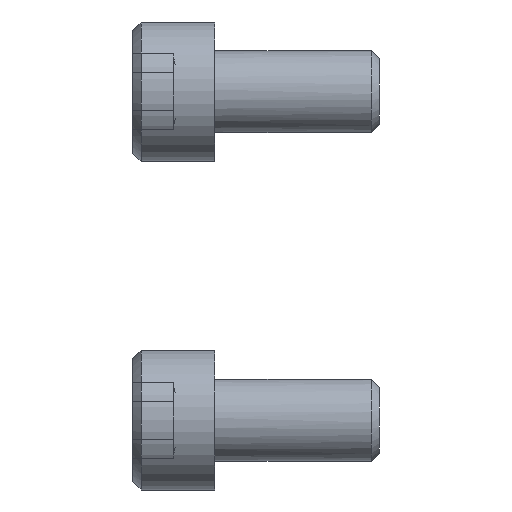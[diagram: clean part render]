
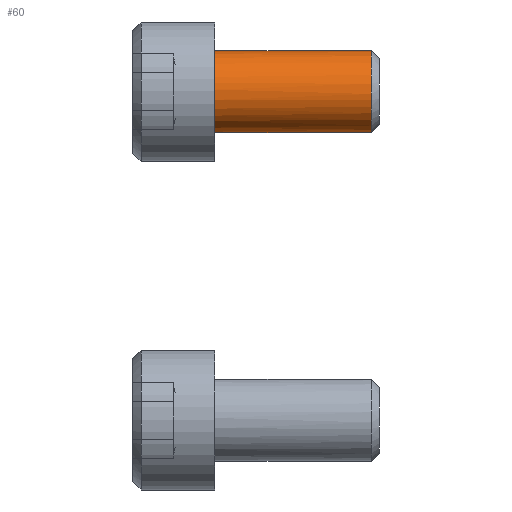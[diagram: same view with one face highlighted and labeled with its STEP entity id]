
A CAD part, left-side view. The second image highlights one B-rep face of the part: STEP entity #60.
In plain terms, the highlighted free-form (B-spline) face has degree [1, 2] with [2, 9] control points.
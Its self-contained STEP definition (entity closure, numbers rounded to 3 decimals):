
#60=ADVANCED_FACE('',(#85),#779,.T.);
#85=FACE_OUTER_BOUND('',#110,.T.);
#110=EDGE_LOOP('',(#143,#144,#145,#146));
#143=ORIENTED_EDGE('',*,*,#646,.T.);
#144=ORIENTED_EDGE('',*,*,#647,.T.);
#145=ORIENTED_EDGE('',*,*,#648,.T.);
#146=ORIENTED_EDGE('',*,*,#649,.T.);
#251=PCURVE('',#779,#359);
#252=PCURVE('',#779,#360);
#253=PCURVE('',#779,#361);
#254=PCURVE('',#779,#362);
#255=PCURVE('',#780,#363);
#328=PCURVE('',#784,#436);
#330=PCURVE('',#784,#438);
#333=PCURVE('',#775,#441);
#359=DEFINITIONAL_REPRESENTATION('',(#471),#1535);
#360=DEFINITIONAL_REPRESENTATION('',(#473),#1535);
#361=DEFINITIONAL_REPRESENTATION('',(#474),#1535);
#362=DEFINITIONAL_REPRESENTATION('',(#476),#1535);
#363=DEFINITIONAL_REPRESENTATION('',(#477),#1535);
#436=DEFINITIONAL_REPRESENTATION('',(#568),#1535);
#438=DEFINITIONAL_REPRESENTATION('',(#570),#1535);
#441=DEFINITIONAL_REPRESENTATION('',(#723),#1535);
#471=B_SPLINE_CURVE_WITH_KNOTS('',1,(#1170,#1171),.UNSPECIFIED.,.F.,.F.,
(2,2),(0.,7.854),.UNSPECIFIED.);
#472=B_SPLINE_CURVE_WITH_KNOTS('',1,(#1172,#1173),.UNSPECIFIED.,.F.,.F.,
(2,2),(0.,9.51),.UNSPECIFIED.);
#473=B_SPLINE_CURVE_WITH_KNOTS('',1,(#1174,#1175),.UNSPECIFIED.,.F.,.F.,
(2,2),(0.,9.51),.UNSPECIFIED.);
#474=B_SPLINE_CURVE_WITH_KNOTS('',1,(#1181,#1182),.UNSPECIFIED.,.F.,.F.,
(2,2),(-7.854,0.),.UNSPECIFIED.);
#475=B_SPLINE_CURVE_WITH_KNOTS('',1,(#1183,#1184),.UNSPECIFIED.,.F.,.F.,
(2,2),(0.,9.51),.UNSPECIFIED.);
#476=B_SPLINE_CURVE_WITH_KNOTS('',1,(#1185,#1186),.UNSPECIFIED.,.F.,.F.,
(2,2),(0.,9.51),.UNSPECIFIED.);
#477=B_SPLINE_CURVE_WITH_KNOTS('',1,(#1187,#1188),.UNSPECIFIED.,.F.,.F.,
(2,2),(-7.854,0.),.UNSPECIFIED.);
#568=B_SPLINE_CURVE_WITH_KNOTS('',1,(#1442,#1443),.UNSPECIFIED.,.F.,.F.,
(2,2),(0.,9.51),.UNSPECIFIED.);
#570=B_SPLINE_CURVE_WITH_KNOTS('',1,(#1451,#1452),.UNSPECIFIED.,.F.,.F.,
(2,2),(0.,9.51),.UNSPECIFIED.);
#592=SURFACE_CURVE('',#696,(#251,#333),.PCURVE_S1.);
#593=SURFACE_CURVE('',#472,(#252,#328),.PCURVE_S1.);
#594=SURFACE_CURVE('',#697,(#253,#255),.PCURVE_S1.);
#595=SURFACE_CURVE('',#475,(#254,#330),.PCURVE_S1.);
#646=EDGE_CURVE('',#735,#738,#592,.T.);
#647=EDGE_CURVE('',#738,#737,#593,.T.);
#648=EDGE_CURVE('',#737,#736,#594,.T.);
#649=EDGE_CURVE('',#736,#735,#595,.T.);
#696=(
BOUNDED_CURVE()
B_SPLINE_CURVE(2,(#1165,#1166,#1167,#1168,#1169),.UNSPECIFIED.,.F.,.F.)
B_SPLINE_CURVE_WITH_KNOTS((3,2,3),(0.,3.927,7.854),
 .UNSPECIFIED.)
CURVE()
GEOMETRIC_REPRESENTATION_ITEM()
RATIONAL_B_SPLINE_CURVE((1.,0.707,1.,0.707,1.))
REPRESENTATION_ITEM('')
);
#697=(
BOUNDED_CURVE()
B_SPLINE_CURVE(2,(#1176,#1177,#1178,#1179,#1180),.UNSPECIFIED.,.F.,.F.)
B_SPLINE_CURVE_WITH_KNOTS((3,2,3),(-7.854,-3.927,0.),
 .UNSPECIFIED.)
CURVE()
GEOMETRIC_REPRESENTATION_ITEM()
RATIONAL_B_SPLINE_CURVE((1.,0.707,1.,0.707,1.))
REPRESENTATION_ITEM('')
);
#723=(
BOUNDED_CURVE()
B_SPLINE_CURVE(2,(#1468,#1469,#1470,#1471,#1472),.UNSPECIFIED.,.F.,.F.)
B_SPLINE_CURVE_WITH_KNOTS((3,2,3),(0.,3.927,7.854),
 .UNSPECIFIED.)
CURVE()
GEOMETRIC_REPRESENTATION_ITEM()
RATIONAL_B_SPLINE_CURVE((1.,0.707,1.,0.707,1.))
REPRESENTATION_ITEM('')
);
#735=VERTEX_POINT('',#1099);
#736=VERTEX_POINT('',#1100);
#737=VERTEX_POINT('',#1101);
#738=VERTEX_POINT('',#1102);
#775=PLANE('',#848);
#779=(
BOUNDED_SURFACE()
B_SPLINE_SURFACE(1,2,((#934,#935,#936,#937,#938,#939,#940,#941,#942),(#943,
#944,#945,#946,#947,#948,#949,#950,#951)),.UNSPECIFIED.,.F.,.F.,.F.)
B_SPLINE_SURFACE_WITH_KNOTS((2,2),(3,2,2,2,3),(0.,11.414),(0.,1.571,
3.142,4.712,6.283),.UNSPECIFIED.)
GEOMETRIC_REPRESENTATION_ITEM()
RATIONAL_B_SPLINE_SURFACE(((1.,0.707,1.,0.707,1.,
0.707,1.,0.707,1.),(1.,0.707,1.,0.707,
1.,0.707,1.,0.707,1.)))
REPRESENTATION_ITEM('')
SURFACE()
);
#780=(
BOUNDED_SURFACE()
B_SPLINE_SURFACE(1,2,((#952,#953,#954,#955,#956,#957,#958,#959,#960),(#961,
#962,#963,#964,#965,#966,#967,#968,#969)),.UNSPECIFIED.,.F.,.F.,.F.)
B_SPLINE_SURFACE_WITH_KNOTS((2,2),(3,2,2,2,3),(0.,3.891),(0.,
1.571,3.142,4.712,6.283),
 .UNSPECIFIED.)
GEOMETRIC_REPRESENTATION_ITEM()
RATIONAL_B_SPLINE_SURFACE(((1.,0.707,1.,0.707,1.,
0.707,1.,0.707,1.),(1.,0.707,1.,0.707,
1.,0.707,1.,0.707,1.)))
REPRESENTATION_ITEM('')
SURFACE()
);
#784=(
BOUNDED_SURFACE()
B_SPLINE_SURFACE(1,2,((#1037,#1038,#1039,#1040,#1041,#1042,#1043,#1044,#1045),
(#1046,#1047,#1048,#1049,#1050,#1051,#1052,#1053,#1054)),.UNSPECIFIED.,.F.,
 .F.,.F.)
B_SPLINE_SURFACE_WITH_KNOTS((2,2),(3,2,2,2,3),(0.,11.414),(0.,1.571,
3.142,4.712,6.283),.UNSPECIFIED.)
GEOMETRIC_REPRESENTATION_ITEM()
RATIONAL_B_SPLINE_SURFACE(((1.,0.707,1.,0.707,1.,
0.707,1.,0.707,1.),(1.,0.707,1.,0.707,
1.,0.707,1.,0.707,1.)))
REPRESENTATION_ITEM('')
SURFACE()
);
#848=AXIS2_PLACEMENT_3D('',#1055,#876,$);
#876=DIRECTION('',(1.,0.,0.));
#934=CARTESIAN_POINT('',(-0.952,2.5,0.));
#935=CARTESIAN_POINT('',(-0.952,2.5,-2.5));
#936=CARTESIAN_POINT('',(-0.952,0.,-2.5));
#937=CARTESIAN_POINT('',(-0.952,-2.5,-2.5));
#938=CARTESIAN_POINT('',(-0.952,-2.5,0.));
#939=CARTESIAN_POINT('',(-0.952,-2.5,2.5));
#940=CARTESIAN_POINT('',(-0.952,0.,2.5));
#941=CARTESIAN_POINT('',(-0.952,2.5,2.5));
#942=CARTESIAN_POINT('',(-0.952,2.5,0.));
#943=CARTESIAN_POINT('',(10.462,2.5,0.));
#944=CARTESIAN_POINT('',(10.462,2.5,-2.5));
#945=CARTESIAN_POINT('',(10.462,0.,-2.5));
#946=CARTESIAN_POINT('',(10.462,-2.5,-2.5));
#947=CARTESIAN_POINT('',(10.462,-2.5,0.));
#948=CARTESIAN_POINT('',(10.462,-2.5,2.5));
#949=CARTESIAN_POINT('',(10.462,0.,2.5));
#950=CARTESIAN_POINT('',(10.462,2.5,2.5));
#951=CARTESIAN_POINT('',(10.462,2.5,0.));
#952=CARTESIAN_POINT('',(12.01,0.,0.));
#953=CARTESIAN_POINT('',(12.01,0.,0.));
#954=CARTESIAN_POINT('',(12.01,0.,0.));
#955=CARTESIAN_POINT('',(12.01,0.,0.));
#956=CARTESIAN_POINT('',(12.01,0.,0.));
#957=CARTESIAN_POINT('',(12.01,0.,0.));
#958=CARTESIAN_POINT('',(12.01,0.,0.));
#959=CARTESIAN_POINT('',(12.01,0.,0.));
#960=CARTESIAN_POINT('',(12.01,0.,0.));
#961=CARTESIAN_POINT('',(9.258,2.751,0.));
#962=CARTESIAN_POINT('',(9.258,2.751,2.751));
#963=CARTESIAN_POINT('',(9.258,0.,2.751));
#964=CARTESIAN_POINT('',(9.258,-2.751,2.751));
#965=CARTESIAN_POINT('',(9.258,-2.751,0.));
#966=CARTESIAN_POINT('',(9.258,-2.751,-2.751));
#967=CARTESIAN_POINT('',(9.258,0.,-2.751));
#968=CARTESIAN_POINT('',(9.258,2.751,-2.751));
#969=CARTESIAN_POINT('',(9.258,2.751,0.));
#1037=CARTESIAN_POINT('',(-0.952,-2.5,0.));
#1038=CARTESIAN_POINT('',(-0.952,-2.5,2.5));
#1039=CARTESIAN_POINT('',(-0.952,0.,2.5));
#1040=CARTESIAN_POINT('',(-0.952,2.5,2.5));
#1041=CARTESIAN_POINT('',(-0.952,2.5,0.));
#1042=CARTESIAN_POINT('',(-0.952,2.5,-2.5));
#1043=CARTESIAN_POINT('',(-0.952,0.,-2.5));
#1044=CARTESIAN_POINT('',(-0.952,-2.5,-2.5));
#1045=CARTESIAN_POINT('',(-0.952,-2.5,0.));
#1046=CARTESIAN_POINT('',(10.462,-2.5,0.));
#1047=CARTESIAN_POINT('',(10.462,-2.5,2.5));
#1048=CARTESIAN_POINT('',(10.462,0.,2.5));
#1049=CARTESIAN_POINT('',(10.462,2.5,2.5));
#1050=CARTESIAN_POINT('',(10.462,2.5,0.));
#1051=CARTESIAN_POINT('',(10.462,2.5,-2.5));
#1052=CARTESIAN_POINT('',(10.462,0.,-2.5));
#1053=CARTESIAN_POINT('',(10.462,-2.5,-2.5));
#1054=CARTESIAN_POINT('',(10.462,-2.5,0.));
#1055=CARTESIAN_POINT('',(0.,5.101,5.101));
#1099=CARTESIAN_POINT('',(0.,0.,2.5));
#1100=CARTESIAN_POINT('',(9.51,0.,2.5));
#1101=CARTESIAN_POINT('',(9.51,0.,-2.5));
#1102=CARTESIAN_POINT('',(0.,0.,-2.5));
#1165=CARTESIAN_POINT('',(0.,0.,2.5));
#1166=CARTESIAN_POINT('',(0.,-2.5,2.5));
#1167=CARTESIAN_POINT('',(0.,-2.5,0.));
#1168=CARTESIAN_POINT('',(0.,-2.5,-2.5));
#1169=CARTESIAN_POINT('',(0.,0.,-2.5));
#1170=CARTESIAN_POINT('',(0.952,4.712));
#1171=CARTESIAN_POINT('',(0.952,1.571));
#1172=CARTESIAN_POINT('',(0.,0.,-2.5));
#1173=CARTESIAN_POINT('',(9.51,0.,-2.5));
#1174=CARTESIAN_POINT('',(0.952,1.571));
#1175=CARTESIAN_POINT('',(10.462,1.571));
#1176=CARTESIAN_POINT('',(9.51,0.,-2.5));
#1177=CARTESIAN_POINT('',(9.51,-2.5,-2.5));
#1178=CARTESIAN_POINT('',(9.51,-2.5,0.));
#1179=CARTESIAN_POINT('',(9.51,-2.5,2.5));
#1180=CARTESIAN_POINT('',(9.51,0.,2.5));
#1181=CARTESIAN_POINT('',(10.462,1.571));
#1182=CARTESIAN_POINT('',(10.462,4.712));
#1183=CARTESIAN_POINT('',(9.51,0.,2.5));
#1184=CARTESIAN_POINT('',(0.,0.,2.5));
#1185=CARTESIAN_POINT('',(10.462,4.712));
#1186=CARTESIAN_POINT('',(0.952,4.712));
#1187=CARTESIAN_POINT('',(3.536,4.712));
#1188=CARTESIAN_POINT('',(3.536,1.571));
#1442=CARTESIAN_POINT('',(0.952,4.712));
#1443=CARTESIAN_POINT('',(10.462,4.712));
#1451=CARTESIAN_POINT('',(10.462,1.571));
#1452=CARTESIAN_POINT('',(0.952,1.571));
#1468=CARTESIAN_POINT('',(0.,0.875));
#1469=CARTESIAN_POINT('',(2.5,0.875));
#1470=CARTESIAN_POINT('',(2.5,3.375));
#1471=CARTESIAN_POINT('',(2.5,5.875));
#1472=CARTESIAN_POINT('',(0.,5.875));
#1535=(
GEOMETRIC_REPRESENTATION_CONTEXT(2)
PARAMETRIC_REPRESENTATION_CONTEXT()
REPRESENTATION_CONTEXT('pspace','')
);
